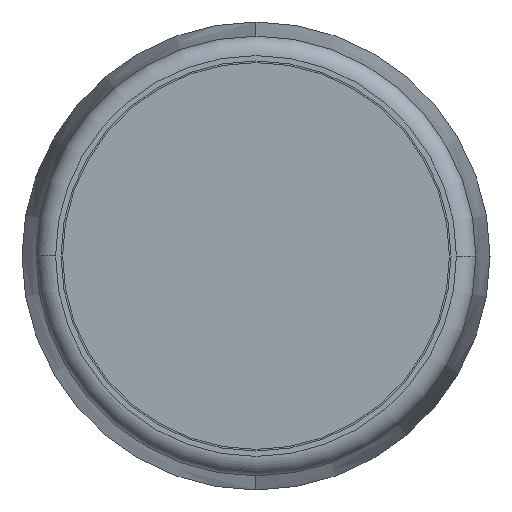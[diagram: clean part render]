
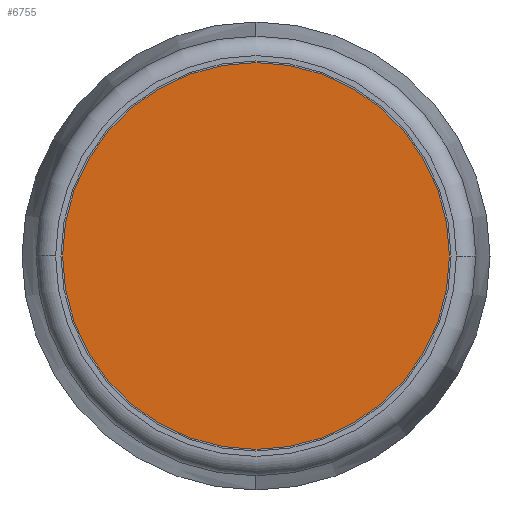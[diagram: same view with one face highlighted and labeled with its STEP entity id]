
A CAD part, front view. The second image highlights one B-rep face of the part: STEP entity #6755.
In plain terms, the highlighted planar face has unit normal (0, -1, 0).
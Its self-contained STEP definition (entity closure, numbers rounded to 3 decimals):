
#338 = CARTESIAN_POINT ( 'NONE',  ( -2.562, 0.15, -10. ) ) ;
#355 = DIRECTION ( 'NONE',  ( 0., 0., 1. ) ) ;
#362 = PLANE ( 'NONE',  #2552 ) ;
#364 = DIRECTION ( 'NONE',  ( 0., 1., 0. ) ) ;
#639 = EDGE_LOOP ( 'NONE', ( #768, #695 ) ) ;
#695 = ORIENTED_EDGE ( 'NONE', *, *, #6877, .F. ) ;
#768 = ORIENTED_EDGE ( 'NONE', *, *, #6808, .F. ) ;
#1396 = DIRECTION ( 'NONE',  ( 0., 1., 0. ) ) ;
#1403 = DIRECTION ( 'NONE',  ( 0., 0., 1. ) ) ;
#1404 = CARTESIAN_POINT ( 'NONE',  ( 0., 0.15, 0. ) ) ;
#2552 = AXIS2_PLACEMENT_3D ( 'NONE', #338, #364, #355 ) ;
#2956 = CARTESIAN_POINT ( 'NONE',  ( 0., 0.15, -2.5 ) ) ;
#3271 = DIRECTION ( 'NONE',  ( 0., 0., 1. ) ) ;
#3303 = CARTESIAN_POINT ( 'NONE',  ( 0., 0.15, 0. ) ) ;
#3304 = DIRECTION ( 'NONE',  ( 0., 1., 0. ) ) ;
#4025 = CARTESIAN_POINT ( 'NONE',  ( 0., 0.15, 2.5 ) ) ;
#6755 = ADVANCED_FACE ( 'NONE', ( #9346 ), #362, .F. ) ;
#6808 = EDGE_CURVE ( 'NONE', #7224, #7241, #7774, .T. ) ;
#6877 = EDGE_CURVE ( 'NONE', #7241, #7224, #8472, .T. ) ;
#7224 = VERTEX_POINT ( 'NONE', #4025 ) ;
#7241 = VERTEX_POINT ( 'NONE', #2956 ) ;
#7600 = AXIS2_PLACEMENT_3D ( 'NONE', #1404, #1396, #1403 ) ;
#7774 = CIRCLE ( 'NONE', #7600, 2.5 ) ;
#8472 = CIRCLE ( 'NONE', #8489, 2.5 ) ;
#8489 = AXIS2_PLACEMENT_3D ( 'NONE', #3303, #3304, #3271 ) ;
#9346 = FACE_OUTER_BOUND ( 'NONE', #639, .T. ) ;
